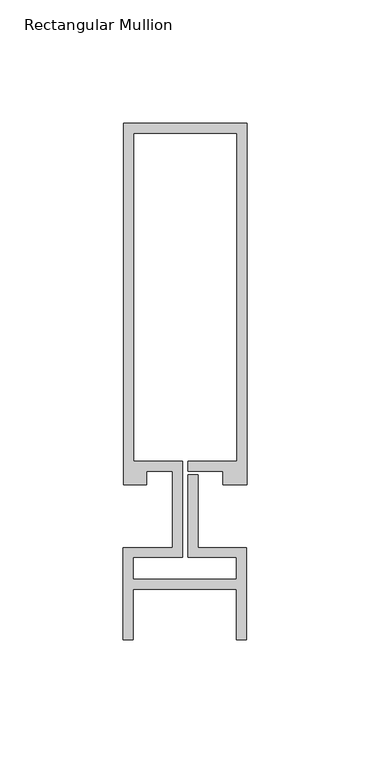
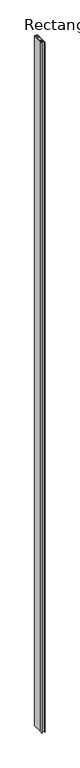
"""IFC4 building model written with IfcOpenShell, lengths in millimetres: member geometry, Rectangular Mullion : Reynaers_CW-50_Transom-Transom_146.5mm_Facecap-03."""

from ifc_helpers import new_model, si_unit, frame, origin, place, context, project, spatial, polyline, outline, extrude, source, transform, mapped, element, save


def rectangular_mullion_0bbc5c10(model_context):
    return source(origin(), model_context, "Body", "SweptSolid", [
        extrude(outline(polyline([(25.1995941, 12.7331291), (15.499, 12.7331291), (15.499, 18.1331291), (1.2995941, 18.1331291), (1.2995941, 22.1331291), (21.1995941, 22.1331291), (21.1995941, 155.2331291), (-20.8004059, 155.2331291), (-20.8004059, 22.1331291), (-0.9004059, 22.1331291), (-0.9004059, -16.7331291), (-20.994845, -16.7331291), (-20.994845, -25.5600018), (20.994845, -25.5600018), (20.994845, -16.7331291), (1.2995941, -16.7331291), (1.2995941, 16.7615089), (5.2995941, 16.7615089), (5.2995941, -12.7331291), (24.994845, -12.7331291), (24.994845, -50.0331291), (20.994845, -50.0331291), (20.994845, -29.5600018), (-20.994845, -29.5600018), (-20.994845, -50.0331291), (-24.994845, -50.0331291), (-24.994845, -12.7331291), (-4.9004059, -12.7331291), (-4.9004059, 18.1331291), (-15.499, 18.1331291), (-15.499, 12.7331291), (-24.8004059, 12.7331291), (-24.8004059, 159.2331291), (25.1995941, 159.2331291), (25.1995941, 12.7331291)])), frame((0.0, 0.0, -12000.0), z_axis=(0.0, 0.0, 1.0), x_axis=(1.0, 0.0, 0.0)), (0.0, 0.0, 1.0), 12000.0),
    ])


if __name__ == "__main__":
    model = new_model("IFC4")
    model_context = context("Model", 3, world=origin())
    ifc_project = project(units=[si_unit("LENGTHUNIT", "METRE", prefix="MILLI")], contexts=[model_context])
    site = spatial("IfcSite", under=ifc_project)
    building = spatial("IfcBuilding", under=site)
    placement = place(None, origin())
    rectangular_mullion_shape = rectangular_mullion_0bbc5c10(model_context)
    element("IfcMember", 1, ObjectType="Rectangular Mullion : Reynaers_CW-50_Transom-Transom_146.5mm_Facecap-03", at=placement, inside=building, context=model_context, shape_type="MappedRepresentation", body=[
        mapped(rectangular_mullion_shape, transform((0.0, 0.0, 0.0), x_axis=(1.0, 0.0, 0.0), y_axis=(0.0, 1.0, 0.0), z_axis=(0.0, 0.0, 1.0))),
    ])
    save(model, "model.ifc")
